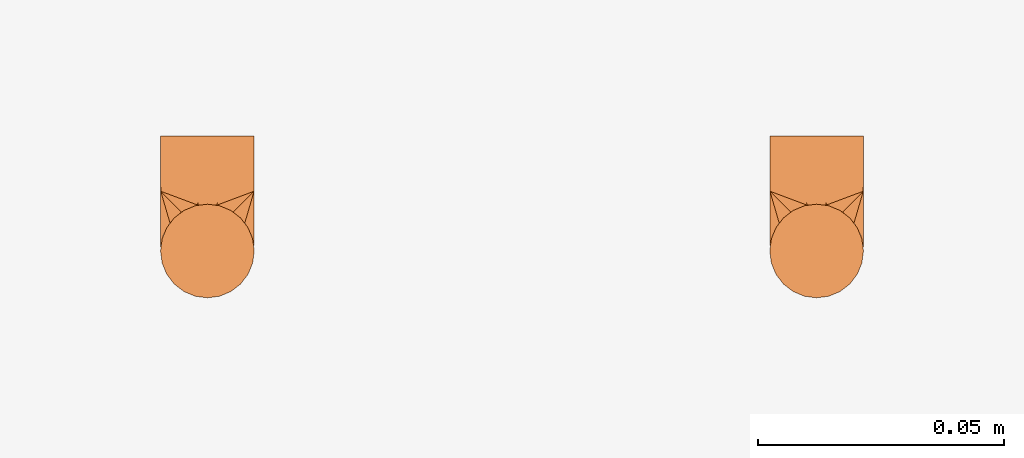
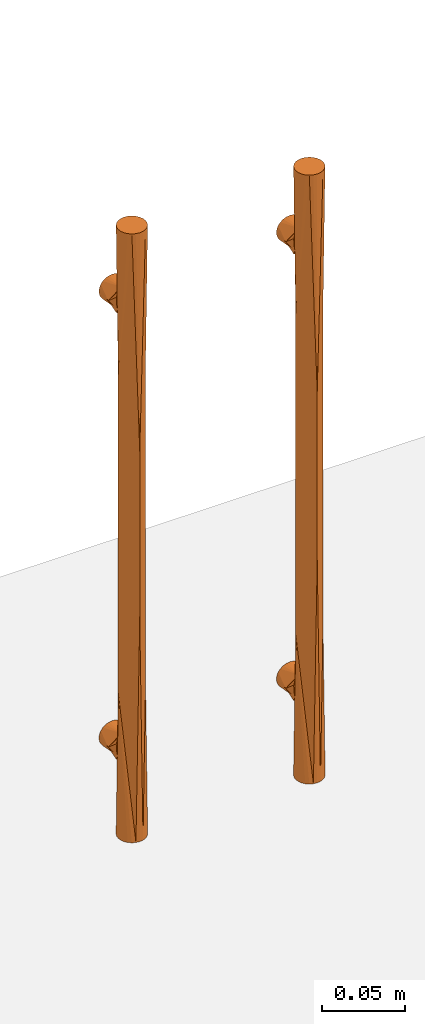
# One storey, part 2 of 4: 2 proxies.
"""IFC2X3 building model written with IfcOpenShell, lengths in millimetres."""

from ifc_helpers import new_model, entity, si_unit, converted_unit, derived_unit, direction, frame, origin, place, context, subcontext, project, spatial, faceted_brep, source, transform, mapped, material, type_object, type_shapes, element, save


model = new_model("IFC2X3")

# Units and contexts
model_context = context("Model", 3, precision=0.01, world=origin(), true_north=direction((6.12303176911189e-17, 1.0)))
context_of_model = context(None, 3, precision=0.01, world=origin(), true_north=direction((6.12303176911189e-17, 1.0)))
body_context = subcontext(model_context, "Body", "Model", "MODEL_VIEW")
ifc_project = project(units=[si_unit("LENGTHUNIT", "METRE", prefix="MILLI"), si_unit("AREAUNIT", "SQUARE_METRE"), si_unit("VOLUMEUNIT", "CUBIC_METRE"), converted_unit("PLANEANGLEUNIT", "DEGREE", entity("IfcRatioMeasure", 0.0174532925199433), si_unit("PLANEANGLEUNIT", "RADIAN"), dimensions=[0, 0, 0, 0, 0, 0, 0]), si_unit("MASSUNIT", "GRAM", prefix="KILO"), derived_unit("MASSDENSITYUNIT", [(si_unit("MASSUNIT", "GRAM", prefix="KILO"), 1), (si_unit("LENGTHUNIT", "METRE"), -3)]), si_unit("TIMEUNIT", "SECOND"), si_unit("FREQUENCYUNIT", "HERTZ"), si_unit("THERMODYNAMICTEMPERATUREUNIT", "DEGREE_CELSIUS"), derived_unit("THERMALTRANSMITTANCEUNIT", [(si_unit("MASSUNIT", "GRAM", prefix="KILO"), 1), (si_unit("THERMODYNAMICTEMPERATUREUNIT", "KELVIN"), -1), (si_unit("TIMEUNIT", "SECOND"), -3)]), derived_unit("VOLUMETRICFLOWRATEUNIT", [(si_unit("LENGTHUNIT", "METRE"), 3), (si_unit("TIMEUNIT", "SECOND"), -1)]), si_unit("ELECTRICCURRENTUNIT", "AMPERE"), si_unit("ELECTRICVOLTAGEUNIT", "VOLT"), si_unit("POWERUNIT", "WATT"), si_unit("FORCEUNIT", "NEWTON", prefix="KILO"), si_unit("ILLUMINANCEUNIT", "LUX"), si_unit("LUMINOUSFLUXUNIT", "LUMEN"), si_unit("LUMINOUSINTENSITYUNIT", "CANDELA"), derived_unit("USERDEFINED", [(si_unit("MASSUNIT", "GRAM", prefix="KILO"), -1), (si_unit("LENGTHUNIT", "METRE"), -2), (si_unit("TIMEUNIT", "SECOND"), 3), (si_unit("LUMINOUSFLUXUNIT", "LUMEN"), 1)]), derived_unit("LINEARVELOCITYUNIT", [(si_unit("LENGTHUNIT", "METRE"), 1), (si_unit("TIMEUNIT", "SECOND"), -1)]), si_unit("PRESSUREUNIT", "PASCAL"), derived_unit("USERDEFINED", [(si_unit("LENGTHUNIT", "METRE"), -2), (si_unit("MASSUNIT", "GRAM", prefix="KILO"), 1), (si_unit("TIMEUNIT", "SECOND"), -2)])], contexts=[model_context, context_of_model])

# Site, building, storey
site_placement = place(None, origin())
site = spatial("IfcSite", under=ifc_project, at=site_placement, Name="Default", CompositionType="ELEMENT")
building_placement = place(site_placement, origin())
building = spatial("IfcBuilding", under=site, at=building_placement, Name="n/a", CompositionType="ELEMENT")
storey_placement = place(building_placement, origin())
storey = spatial("IfcBuildingStorey", under=building, at=storey_placement, Name="Level 0", CompositionType="ELEMENT", Elevation=0.0)

# Proxies
ifc_material_1 = material(Name="DBLTD_Duten_Metal_BrushedBrass")
building_element_proxy_type_1 = type_object("IfcBuildingElementProxyType", PredefinedType="NOTDEFINED", material=ifc_material_1)
shared_shape_1 = source(origin(), body_context, "Body", "Brep", [
    faceted_brep([(18.7547280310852, 16.8611433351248, 384.331021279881), (20.1271758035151, 14.2969526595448, 386.945673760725), (20.1271758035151, 14.2969526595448, 393.054326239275), (18.7547280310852, 16.8611433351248, 395.668978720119), (3.50644367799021, 16.8585483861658, 395.666356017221), (3.50644367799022, 16.8585483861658, 384.333643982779), (16.4191813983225, 19.0676721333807, 382.10753097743), (5.84226515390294, 19.0665559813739, 382.108653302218), (20.6315606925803, 11.9627029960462, 390.0), (16.4191813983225, 19.0676721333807, 397.89246902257), (5.84226515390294, 19.0665559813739, 397.891346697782), (9.18928749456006, 20.4679610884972, 399.299331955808), (13.073195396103, 20.4680938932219, 399.299465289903), (9.18928749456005, 20.4679610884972, 380.700668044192), (13.0731953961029, 20.4680938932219, 380.700534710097), (2.13472865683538, 14.2934921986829, 386.949260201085), (2.13472865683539, 14.293492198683, 393.050739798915), (1.63156069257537, 11.9627029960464, 390.0), (13.5903416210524, 34.5952722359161, 399.176295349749), (15.8815606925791, 34.5952722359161, 398.227241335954), (17.8490751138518, 34.5952722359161, 396.717514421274), (19.3588020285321, 34.5952722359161, 394.750000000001), (20.3078560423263, 34.5952722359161, 392.458780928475), (20.6315606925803, 34.5952722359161, 390.0), (20.3078560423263, 34.5952722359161, 387.541219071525), (19.3588020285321, 34.5952722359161, 385.249999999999), (17.8490751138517, 34.5952722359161, 383.282485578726), (15.881560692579, 34.5952722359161, 381.772758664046), (13.5903416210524, 34.5952722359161, 380.823704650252), (11.1315606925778, 34.5952722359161, 380.499999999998), (8.67277976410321, 34.5952722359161, 380.823704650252), (6.38156069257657, 34.5952722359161, 381.772758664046), (4.41404627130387, 34.5952722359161, 383.282485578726), (2.90431935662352, 34.5952722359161, 385.249999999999), (1.9552653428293, 34.5952722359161, 387.541219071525), (1.63156069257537, 34.5952722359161, 390.0), (1.95526534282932, 34.5952722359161, 392.458780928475), (2.90431935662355, 34.5952722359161, 394.750000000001), (4.41404627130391, 34.5952722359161, 396.717514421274), (6.38156069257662, 34.5952722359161, 398.227241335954), (8.67277976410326, 34.5952722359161, 399.176295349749), (11.1315606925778, 34.5952722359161, 399.500000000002), (1.63156069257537, 23.2978504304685, 390.0), (1.63156069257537, 17.6302767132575, 390.0), (1.63156069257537, 14.7964898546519, 390.0), (20.6315606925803, 23.2978504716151, 390.0), (20.6315606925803, 17.6302767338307, 390.0), (20.6315606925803, 14.7964898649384, 390.0)], [[[0, 1, 2, 3]], [[0, 3, 4, 5]], [[6, 0, 7]], [[2, 1, 8]], [[9, 10, 3]], [[11, 9, 12]], [[13, 14, 6]], [[7, 0, 5]], [[15, 5, 4, 16]], [[11, 10, 9]], [[4, 3, 10]], [[16, 17, 15]], [[7, 13, 6]], [[18, 19, 20, 21, 22, 23, 24, 25, 26, 27, 28, 29, 30, 31, 32, 33, 34, 35, 36, 37, 38, 39, 40, 41]], [[34, 33, 42]], [[32, 13, 42]], [[32, 42, 33]], [[32, 31, 13]], [[15, 43, 5]], [[34, 42, 35]], [[15, 17, 44, 43]], [[13, 7, 42]], [[5, 42, 7]], [[13, 30, 29]], [[31, 30, 13]], [[43, 42, 5]], [[28, 14, 29]], [[27, 14, 28]], [[26, 25, 45]], [[27, 26, 14]], [[25, 24, 45]], [[0, 46, 1]], [[26, 45, 14]], [[14, 45, 6]], [[1, 46, 47, 8]], [[0, 6, 45]], [[23, 45, 24]], [[45, 46, 0]], [[29, 14, 13]], [[22, 21, 45]], [[20, 12, 45]], [[20, 45, 21]], [[20, 19, 12]], [[2, 46, 3]], [[22, 45, 23]], [[16, 43, 44, 17]], [[12, 9, 45]], [[3, 45, 9]], [[12, 18, 41]], [[4, 43, 16]], [[19, 18, 12]], [[42, 43, 4]], [[40, 11, 41]], [[39, 11, 40]], [[38, 37, 42]], [[39, 38, 11]], [[37, 36, 42]], [[2, 8, 47, 46]], [[38, 42, 11]], [[11, 42, 10]], [[4, 10, 42]], [[35, 42, 36]], [[46, 45, 3]], [[41, 11, 12]]]),
    faceted_brep([(13.5903416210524, 34.5952722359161, 69.176295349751), (15.8815606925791, 34.5952722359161, 68.2272413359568), (17.8490751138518, 34.5952722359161, 66.7175144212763), (19.3588020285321, 34.5952722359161, 64.7500000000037), (20.3078560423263, 34.5952722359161, 62.458780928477), (20.6315606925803, 34.5952722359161, 60.0), (20.3078560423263, 34.5952722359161, 57.5412190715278), (19.3588020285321, 34.5952722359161, 55.2500000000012), (17.8490751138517, 34.5952722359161, 53.2824855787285), (15.881560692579, 34.5952722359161, 51.7727586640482), (13.5903416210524, 34.5952722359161, 50.8237046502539), (11.1315606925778, 34.5952722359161, 50.5), (8.67277976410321, 34.5952722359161, 50.8237046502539), (6.38156069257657, 34.5952722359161, 51.7727586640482), (4.41404627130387, 34.5952722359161, 53.2824855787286), (2.90431935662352, 34.5952722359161, 55.2500000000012), (1.9552653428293, 34.5952722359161, 57.5412190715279), (1.63156069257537, 34.5952722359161, 60.0), (1.95526534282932, 34.5952722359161, 62.4587809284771), (2.90431935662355, 34.5952722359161, 64.7500000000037), (4.41404627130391, 34.5952722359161, 66.7175144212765), (6.38156069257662, 34.5952722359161, 68.2272413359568), (8.67277976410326, 34.5952722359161, 69.176295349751), (11.1315606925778, 34.5952722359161, 69.5000000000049), (1.63156069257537, 23.2978504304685, 60.0), (9.18928749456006, 20.4679610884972, 50.7006680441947), (2.13472865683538, 14.2934921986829, 56.9492602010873), (1.63156069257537, 17.6302767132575, 60.0), (3.50644367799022, 16.8585483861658, 54.3336439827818), (1.63156069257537, 11.9627029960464, 60.0), (1.63156069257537, 14.7964898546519, 60.0), (5.84226515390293, 19.0665559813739, 52.1086533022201), (13.073195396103, 20.4680938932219, 50.7005347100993), (20.6315606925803, 23.2978504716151, 60.0), (18.7547280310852, 16.8611433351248, 54.3310212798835), (20.6315606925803, 17.6302767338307, 60.0), (20.1271758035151, 14.2969526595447, 56.9456737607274), (16.4191813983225, 19.0676721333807, 52.1075309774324), (20.6315606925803, 14.7964898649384, 60.0), (20.6315606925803, 11.9627029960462, 60.0), (13.073195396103, 20.4680938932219, 69.2994652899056), (20.1271758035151, 14.2969526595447, 63.0543262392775), (18.7547280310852, 16.8611433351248, 65.6689787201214), (2.13472865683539, 14.293492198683, 63.0507397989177), (16.4191813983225, 19.0676721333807, 67.8924690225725), (3.50644367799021, 16.8585483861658, 65.6663560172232), (9.18928749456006, 20.4679610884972, 69.2993319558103), (5.84226515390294, 19.0665559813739, 67.8913466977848)], [[[0, 1, 2, 3, 4, 5, 6, 7, 8, 9, 10, 11, 12, 13, 14, 15, 16, 17, 18, 19, 20, 21, 22, 23]], [[16, 15, 24]], [[14, 25, 24]], [[14, 24, 15]], [[14, 13, 25]], [[26, 27, 28]], [[16, 24, 17]], [[26, 29, 30, 27]], [[25, 31, 24]], [[28, 24, 31]], [[25, 12, 11]], [[13, 12, 25]], [[27, 24, 28]], [[10, 32, 11]], [[9, 32, 10]], [[8, 7, 33]], [[9, 8, 32]], [[7, 6, 33]], [[34, 35, 36]], [[8, 33, 32]], [[32, 33, 37]], [[36, 35, 38, 39]], [[34, 37, 33]], [[5, 33, 6]], [[33, 35, 34]], [[11, 32, 25]], [[4, 3, 33]], [[2, 40, 33]], [[2, 33, 3]], [[2, 1, 40]], [[41, 35, 42]], [[4, 33, 5]], [[43, 27, 30, 29]], [[40, 44, 33]], [[42, 33, 44]], [[40, 0, 23]], [[45, 27, 43]], [[1, 0, 40]], [[24, 27, 45]], [[22, 46, 23]], [[21, 46, 22]], [[20, 19, 24]], [[21, 20, 46]], [[19, 18, 24]], [[41, 39, 38, 35]], [[20, 24, 46]], [[46, 24, 47]], [[45, 47, 24]], [[17, 24, 18]], [[35, 33, 42]], [[23, 46, 40]], [[34, 36, 41, 42]], [[34, 42, 45, 28]], [[37, 34, 31]], [[41, 36, 39]], [[44, 47, 42]], [[46, 44, 40]], [[25, 32, 37]], [[31, 34, 28]], [[26, 28, 45, 43]], [[46, 47, 44]], [[45, 42, 47]], [[43, 29, 26]], [[31, 25, 37]]]),
    faceted_brep([(13.5997337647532, 1.92021338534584, 450.0), (15.8997049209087, 2.87289263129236, 450.0), (17.8747349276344, 4.38838645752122, 450.0), (19.3902287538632, 6.36341646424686, 450.0), (20.3429079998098, 8.66338762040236, 450.0), (20.6678491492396, 11.1315606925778, 450.0), (20.3429079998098, 13.5997337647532, 450.0), (19.3902287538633, 15.8997049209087, 450.0), (17.8747349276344, 17.8747349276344, 450.0), (15.8997049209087, 19.3902287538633, 450.0), (13.5997337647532, 20.3429079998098, 450.0), (11.1315606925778, 20.6678491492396, 450.0), (8.66338762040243, 20.3429079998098, 450.0), (6.36341646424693, 19.3902287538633, 450.0), (4.38838645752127, 17.8747349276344, 450.0), (2.8728926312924, 15.8997049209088, 450.0), (1.92021338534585, 13.5997337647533, 450.0), (1.595272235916, 11.1315606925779, 450.0), (1.92021338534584, 8.66338762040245, 450.0), (2.87289263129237, 6.36341646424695, 450.0), (4.38838645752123, 4.38838645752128, 450.0), (6.36341646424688, 2.87289263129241, 450.0), (8.66338762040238, 1.92021338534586, 450.0), (11.1315606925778, 1.595272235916, 450.0), (20.3429079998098, 13.5997337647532, 0.0), (20.6678491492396, 11.1315606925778, 0.0), (20.3429079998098, 8.66338762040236, 0.0), (19.3902287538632, 6.36341646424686, 0.0), (17.8747349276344, 4.38838645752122, 0.0), (15.8997049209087, 2.87289263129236, 0.0), (13.5997337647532, 1.92021338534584, 0.0), (11.1315606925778, 1.595272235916, 0.0), (8.66338762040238, 1.92021338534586, 0.0), (6.36341646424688, 2.87289263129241, 0.0), (4.38838645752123, 4.38838645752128, 0.0), (2.87289263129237, 6.36341646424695, 0.0), (1.92021338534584, 8.66338762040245, 0.0), (1.595272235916, 11.1315606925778, 0.0), (1.92021338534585, 13.5997337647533, 0.0), (2.8728926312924, 15.8997049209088, 0.0), (4.38838645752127, 17.8747349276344, 0.0), (6.36341646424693, 19.3902287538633, 0.0), (8.66338762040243, 20.3429079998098, 0.0), (11.1315606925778, 20.6678491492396, 0.0), (13.5997337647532, 20.3429079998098, 0.0), (15.8997049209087, 19.3902287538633, 0.0), (17.8747349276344, 17.8747349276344, 0.0), (19.3902287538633, 15.8997049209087, 0.0), (11.1315607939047, 1.595272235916, 288.259633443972), (11.1315610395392, 1.59527223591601, 166.413462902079), (20.6678491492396, 11.1315606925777, 107.826913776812), (20.6678491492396, 11.1315606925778, 225.0), (20.6678491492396, 11.1315606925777, 234.346172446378), (1.595272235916, 11.1315606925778, 342.173083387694), (20.6678491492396, 11.1315606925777, 342.17308622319), (1.595272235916, 11.1315606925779, 107.826913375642), (1.595272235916, 11.1315606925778, 224.999998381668), (1.595272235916, 11.1315606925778, 234.34617730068), (11.131560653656, 20.6678491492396, 288.259633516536), (11.1315605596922, 20.6678491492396, 166.413462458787)], [[[0, 1, 2, 3, 4, 5, 6, 7, 8, 9, 10, 11, 12, 13, 14, 15, 16, 17, 18, 19, 20, 21, 22, 23]], [[24, 25, 26, 27, 28, 29, 30, 31, 32, 33, 34, 35, 36, 37, 38, 39, 40, 41, 42, 43, 44, 45, 46, 47]], [[0, 23, 48]], [[49, 50, 51, 52]], [[21, 53, 48]], [[54, 2, 1]], [[26, 25, 50]], [[4, 54, 5]], [[30, 50, 49]], [[32, 49, 55]], [[35, 55, 36]], [[18, 17, 53]], [[36, 55, 37]], [[34, 33, 55]], [[48, 23, 22]], [[48, 52, 54]], [[3, 54, 4]], [[56, 55, 49]], [[53, 19, 18]], [[55, 35, 34]], [[31, 49, 32]], [[33, 32, 55]], [[29, 50, 30]], [[50, 28, 27]], [[50, 27, 26]], [[30, 49, 31]], [[52, 48, 49]], [[3, 2, 54]], [[48, 56, 49]], [[20, 19, 53]], [[53, 21, 20]], [[21, 48, 22]], [[1, 0, 48]], [[54, 1, 48]], [[48, 53, 57, 56]], [[29, 28, 50]], [[53, 14, 13]], [[58, 54, 52, 51]], [[43, 59, 44]], [[15, 53, 16]], [[45, 44, 50]], [[50, 47, 46]], [[58, 57, 53]], [[59, 42, 55]], [[6, 5, 54]], [[50, 25, 24]], [[54, 7, 6]], [[44, 59, 50]], [[47, 50, 24]], [[50, 59, 51]], [[12, 11, 58]], [[10, 58, 11]], [[38, 37, 55]], [[17, 16, 53]], [[46, 45, 50]], [[41, 55, 42]], [[40, 39, 55]], [[58, 51, 59]], [[55, 39, 38]], [[42, 59, 43]], [[59, 57, 58]], [[15, 14, 53]], [[59, 55, 56, 57]], [[54, 8, 7]], [[54, 9, 8]], [[10, 9, 58]], [[12, 58, 13]], [[53, 13, 58]], [[9, 54, 58]], [[41, 40, 55]]]),
])
type_shapes(building_element_proxy_type_1, [shared_shape_1])
proxy_1_placement = place(storey_placement, frame((2113.1485780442, 266.619771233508, 775.0)))
element("IfcBuildingElementProxy", 1, at=proxy_1_placement, inside=storey, type_object=building_element_proxy_type_1, material=ifc_material_1, Name="(7)", ObjectType="DBLTD_Duten_PullHandles_Q911:Brushed Brass Pull Handle", context=body_context, shape_type="MappedRepresentation", body=[
    mapped(shared_shape_1, transform((0.0, 0.0, 0.0), scale=1.0)),
])
ifc_material_2 = material(Name="DBLTD_Duten_Metal_BrushedCopper")
building_element_proxy_type_2 = type_object("IfcBuildingElementProxyType", PredefinedType="NOTDEFINED", material=ifc_material_2)
shared_shape_2 = source(origin(), body_context, "Body", "Brep", [
    faceted_brep([(18.7547280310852, 16.8611433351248, 384.331021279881), (20.1271758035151, 14.2969526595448, 386.945673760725), (20.1271758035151, 14.2969526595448, 393.054326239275), (18.7547280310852, 16.8611433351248, 395.668978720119), (3.50644367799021, 16.8585483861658, 395.666356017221), (3.50644367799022, 16.8585483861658, 384.333643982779), (16.4191813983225, 19.0676721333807, 382.10753097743), (5.84226515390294, 19.0665559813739, 382.108653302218), (20.6315606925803, 11.9627029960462, 390.0), (16.4191813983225, 19.0676721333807, 397.89246902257), (5.84226515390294, 19.0665559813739, 397.891346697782), (9.18928749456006, 20.4679610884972, 399.299331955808), (13.073195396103, 20.4680938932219, 399.299465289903), (9.18928749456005, 20.4679610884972, 380.700668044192), (13.0731953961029, 20.4680938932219, 380.700534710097), (2.13472865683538, 14.2934921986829, 386.949260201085), (2.13472865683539, 14.293492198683, 393.050739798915), (1.63156069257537, 11.9627029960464, 390.0), (13.5903416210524, 34.5952722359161, 399.176295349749), (15.8815606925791, 34.5952722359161, 398.227241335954), (17.8490751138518, 34.5952722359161, 396.717514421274), (19.3588020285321, 34.5952722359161, 394.750000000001), (20.3078560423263, 34.5952722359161, 392.458780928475), (20.6315606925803, 34.5952722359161, 390.0), (20.3078560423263, 34.5952722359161, 387.541219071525), (19.3588020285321, 34.5952722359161, 385.249999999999), (17.8490751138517, 34.5952722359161, 383.282485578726), (15.881560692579, 34.5952722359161, 381.772758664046), (13.5903416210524, 34.5952722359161, 380.823704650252), (11.1315606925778, 34.5952722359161, 380.499999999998), (8.67277976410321, 34.5952722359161, 380.823704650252), (6.38156069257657, 34.5952722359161, 381.772758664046), (4.41404627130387, 34.5952722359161, 383.282485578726), (2.90431935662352, 34.5952722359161, 385.249999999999), (1.9552653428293, 34.5952722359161, 387.541219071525), (1.63156069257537, 34.5952722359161, 390.0), (1.95526534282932, 34.5952722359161, 392.458780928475), (2.90431935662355, 34.5952722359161, 394.750000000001), (4.41404627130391, 34.5952722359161, 396.717514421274), (6.38156069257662, 34.5952722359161, 398.227241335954), (8.67277976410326, 34.5952722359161, 399.176295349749), (11.1315606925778, 34.5952722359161, 399.500000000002), (1.63156069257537, 23.2978504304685, 390.0), (1.63156069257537, 17.6302767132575, 390.0), (1.63156069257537, 14.7964898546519, 390.0), (20.6315606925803, 23.2978504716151, 390.0), (20.6315606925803, 17.6302767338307, 390.0), (20.6315606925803, 14.7964898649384, 390.0)], [[[0, 1, 2, 3]], [[0, 3, 4, 5]], [[6, 0, 7]], [[2, 1, 8]], [[9, 10, 3]], [[11, 9, 12]], [[13, 14, 6]], [[7, 0, 5]], [[15, 5, 4, 16]], [[11, 10, 9]], [[4, 3, 10]], [[16, 17, 15]], [[7, 13, 6]], [[18, 19, 20, 21, 22, 23, 24, 25, 26, 27, 28, 29, 30, 31, 32, 33, 34, 35, 36, 37, 38, 39, 40, 41]], [[34, 33, 42]], [[32, 13, 42]], [[32, 42, 33]], [[32, 31, 13]], [[15, 43, 5]], [[34, 42, 35]], [[15, 17, 44, 43]], [[13, 7, 42]], [[5, 42, 7]], [[13, 30, 29]], [[31, 30, 13]], [[43, 42, 5]], [[28, 14, 29]], [[27, 14, 28]], [[26, 25, 45]], [[27, 26, 14]], [[25, 24, 45]], [[0, 46, 1]], [[26, 45, 14]], [[14, 45, 6]], [[1, 46, 47, 8]], [[0, 6, 45]], [[23, 45, 24]], [[45, 46, 0]], [[29, 14, 13]], [[22, 21, 45]], [[20, 12, 45]], [[20, 45, 21]], [[20, 19, 12]], [[2, 46, 3]], [[22, 45, 23]], [[16, 43, 44, 17]], [[12, 9, 45]], [[3, 45, 9]], [[12, 18, 41]], [[4, 43, 16]], [[19, 18, 12]], [[42, 43, 4]], [[40, 11, 41]], [[39, 11, 40]], [[38, 37, 42]], [[39, 38, 11]], [[37, 36, 42]], [[2, 8, 47, 46]], [[38, 42, 11]], [[11, 42, 10]], [[4, 10, 42]], [[35, 42, 36]], [[46, 45, 3]], [[41, 11, 12]]]),
    faceted_brep([(13.5903416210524, 34.5952722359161, 69.176295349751), (15.8815606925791, 34.5952722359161, 68.2272413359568), (17.8490751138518, 34.5952722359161, 66.7175144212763), (19.3588020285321, 34.5952722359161, 64.7500000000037), (20.3078560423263, 34.5952722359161, 62.458780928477), (20.6315606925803, 34.5952722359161, 60.0), (20.3078560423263, 34.5952722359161, 57.5412190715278), (19.3588020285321, 34.5952722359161, 55.2500000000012), (17.8490751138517, 34.5952722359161, 53.2824855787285), (15.881560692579, 34.5952722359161, 51.7727586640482), (13.5903416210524, 34.5952722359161, 50.8237046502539), (11.1315606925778, 34.5952722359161, 50.5), (8.67277976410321, 34.5952722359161, 50.8237046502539), (6.38156069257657, 34.5952722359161, 51.7727586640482), (4.41404627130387, 34.5952722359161, 53.2824855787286), (2.90431935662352, 34.5952722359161, 55.2500000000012), (1.9552653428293, 34.5952722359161, 57.5412190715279), (1.63156069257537, 34.5952722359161, 60.0), (1.95526534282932, 34.5952722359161, 62.4587809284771), (2.90431935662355, 34.5952722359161, 64.7500000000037), (4.41404627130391, 34.5952722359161, 66.7175144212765), (6.38156069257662, 34.5952722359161, 68.2272413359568), (8.67277976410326, 34.5952722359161, 69.176295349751), (11.1315606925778, 34.5952722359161, 69.5000000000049), (1.63156069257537, 23.2978504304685, 60.0), (9.18928749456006, 20.4679610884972, 50.7006680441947), (2.13472865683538, 14.2934921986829, 56.9492602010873), (1.63156069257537, 17.6302767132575, 60.0), (3.50644367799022, 16.8585483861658, 54.3336439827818), (1.63156069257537, 11.9627029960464, 60.0), (1.63156069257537, 14.7964898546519, 60.0), (5.84226515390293, 19.0665559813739, 52.1086533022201), (13.073195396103, 20.4680938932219, 50.7005347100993), (20.6315606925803, 23.2978504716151, 60.0), (18.7547280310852, 16.8611433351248, 54.3310212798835), (20.6315606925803, 17.6302767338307, 60.0), (20.1271758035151, 14.2969526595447, 56.9456737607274), (16.4191813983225, 19.0676721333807, 52.1075309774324), (20.6315606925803, 14.7964898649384, 60.0), (20.6315606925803, 11.9627029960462, 60.0), (13.073195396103, 20.4680938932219, 69.2994652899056), (20.1271758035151, 14.2969526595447, 63.0543262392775), (18.7547280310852, 16.8611433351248, 65.6689787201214), (2.13472865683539, 14.293492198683, 63.0507397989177), (16.4191813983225, 19.0676721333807, 67.8924690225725), (3.50644367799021, 16.8585483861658, 65.6663560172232), (9.18928749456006, 20.4679610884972, 69.2993319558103), (5.84226515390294, 19.0665559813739, 67.8913466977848)], [[[0, 1, 2, 3, 4, 5, 6, 7, 8, 9, 10, 11, 12, 13, 14, 15, 16, 17, 18, 19, 20, 21, 22, 23]], [[16, 15, 24]], [[14, 25, 24]], [[14, 24, 15]], [[14, 13, 25]], [[26, 27, 28]], [[16, 24, 17]], [[26, 29, 30, 27]], [[25, 31, 24]], [[28, 24, 31]], [[25, 12, 11]], [[13, 12, 25]], [[27, 24, 28]], [[10, 32, 11]], [[9, 32, 10]], [[8, 7, 33]], [[9, 8, 32]], [[7, 6, 33]], [[34, 35, 36]], [[8, 33, 32]], [[32, 33, 37]], [[36, 35, 38, 39]], [[34, 37, 33]], [[5, 33, 6]], [[33, 35, 34]], [[11, 32, 25]], [[4, 3, 33]], [[2, 40, 33]], [[2, 33, 3]], [[2, 1, 40]], [[41, 35, 42]], [[4, 33, 5]], [[43, 27, 30, 29]], [[40, 44, 33]], [[42, 33, 44]], [[40, 0, 23]], [[45, 27, 43]], [[1, 0, 40]], [[24, 27, 45]], [[22, 46, 23]], [[21, 46, 22]], [[20, 19, 24]], [[21, 20, 46]], [[19, 18, 24]], [[41, 39, 38, 35]], [[20, 24, 46]], [[46, 24, 47]], [[45, 47, 24]], [[17, 24, 18]], [[35, 33, 42]], [[23, 46, 40]], [[34, 36, 41, 42]], [[34, 42, 45, 28]], [[37, 34, 31]], [[41, 36, 39]], [[44, 47, 42]], [[46, 44, 40]], [[25, 32, 37]], [[31, 34, 28]], [[26, 28, 45, 43]], [[46, 47, 44]], [[45, 42, 47]], [[43, 29, 26]], [[31, 25, 37]]]),
    faceted_brep([(13.5997337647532, 1.92021338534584, 450.0), (15.8997049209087, 2.87289263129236, 450.0), (17.8747349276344, 4.38838645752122, 450.0), (19.3902287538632, 6.36341646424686, 450.0), (20.3429079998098, 8.66338762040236, 450.0), (20.6678491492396, 11.1315606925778, 450.0), (20.3429079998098, 13.5997337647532, 450.0), (19.3902287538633, 15.8997049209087, 450.0), (17.8747349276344, 17.8747349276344, 450.0), (15.8997049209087, 19.3902287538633, 450.0), (13.5997337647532, 20.3429079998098, 450.0), (11.1315606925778, 20.6678491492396, 450.0), (8.66338762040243, 20.3429079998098, 450.0), (6.36341646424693, 19.3902287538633, 450.0), (4.38838645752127, 17.8747349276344, 450.0), (2.8728926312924, 15.8997049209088, 450.0), (1.92021338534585, 13.5997337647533, 450.0), (1.595272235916, 11.1315606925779, 450.0), (1.92021338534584, 8.66338762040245, 450.0), (2.87289263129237, 6.36341646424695, 450.0), (4.38838645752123, 4.38838645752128, 450.0), (6.36341646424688, 2.87289263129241, 450.0), (8.66338762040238, 1.92021338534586, 450.0), (11.1315606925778, 1.595272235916, 450.0), (20.3429079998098, 13.5997337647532, 0.0), (20.6678491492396, 11.1315606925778, 0.0), (20.3429079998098, 8.66338762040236, 0.0), (19.3902287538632, 6.36341646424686, 0.0), (17.8747349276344, 4.38838645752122, 0.0), (15.8997049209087, 2.87289263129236, 0.0), (13.5997337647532, 1.92021338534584, 0.0), (11.1315606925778, 1.595272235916, 0.0), (8.66338762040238, 1.92021338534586, 0.0), (6.36341646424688, 2.87289263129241, 0.0), (4.38838645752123, 4.38838645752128, 0.0), (2.87289263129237, 6.36341646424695, 0.0), (1.92021338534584, 8.66338762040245, 0.0), (1.595272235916, 11.1315606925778, 0.0), (1.92021338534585, 13.5997337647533, 0.0), (2.8728926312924, 15.8997049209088, 0.0), (4.38838645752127, 17.8747349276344, 0.0), (6.36341646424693, 19.3902287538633, 0.0), (8.66338762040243, 20.3429079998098, 0.0), (11.1315606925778, 20.6678491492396, 0.0), (13.5997337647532, 20.3429079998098, 0.0), (15.8997049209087, 19.3902287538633, 0.0), (17.8747349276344, 17.8747349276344, 0.0), (19.3902287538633, 15.8997049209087, 0.0), (11.1315607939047, 1.595272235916, 288.259633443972), (11.1315610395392, 1.59527223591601, 166.413462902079), (20.6678491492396, 11.1315606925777, 107.826913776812), (20.6678491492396, 11.1315606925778, 225.0), (20.6678491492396, 11.1315606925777, 234.346172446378), (1.595272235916, 11.1315606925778, 342.173083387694), (20.6678491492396, 11.1315606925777, 342.17308622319), (1.595272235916, 11.1315606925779, 107.826913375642), (1.595272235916, 11.1315606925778, 224.999998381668), (1.595272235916, 11.1315606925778, 234.34617730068), (11.131560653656, 20.6678491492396, 288.259633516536), (11.1315605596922, 20.6678491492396, 166.413462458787)], [[[0, 1, 2, 3, 4, 5, 6, 7, 8, 9, 10, 11, 12, 13, 14, 15, 16, 17, 18, 19, 20, 21, 22, 23]], [[24, 25, 26, 27, 28, 29, 30, 31, 32, 33, 34, 35, 36, 37, 38, 39, 40, 41, 42, 43, 44, 45, 46, 47]], [[0, 23, 48]], [[49, 50, 51, 52]], [[21, 53, 48]], [[54, 2, 1]], [[26, 25, 50]], [[4, 54, 5]], [[30, 50, 49]], [[32, 49, 55]], [[35, 55, 36]], [[18, 17, 53]], [[36, 55, 37]], [[34, 33, 55]], [[48, 23, 22]], [[48, 52, 54]], [[3, 54, 4]], [[56, 55, 49]], [[53, 19, 18]], [[55, 35, 34]], [[31, 49, 32]], [[33, 32, 55]], [[29, 50, 30]], [[50, 28, 27]], [[50, 27, 26]], [[30, 49, 31]], [[52, 48, 49]], [[3, 2, 54]], [[48, 56, 49]], [[20, 19, 53]], [[53, 21, 20]], [[21, 48, 22]], [[1, 0, 48]], [[54, 1, 48]], [[48, 53, 57, 56]], [[29, 28, 50]], [[53, 14, 13]], [[58, 54, 52, 51]], [[43, 59, 44]], [[15, 53, 16]], [[45, 44, 50]], [[50, 47, 46]], [[58, 57, 53]], [[59, 42, 55]], [[6, 5, 54]], [[50, 25, 24]], [[54, 7, 6]], [[44, 59, 50]], [[47, 50, 24]], [[50, 59, 51]], [[12, 11, 58]], [[10, 58, 11]], [[38, 37, 55]], [[17, 16, 53]], [[46, 45, 50]], [[41, 55, 42]], [[40, 39, 55]], [[58, 51, 59]], [[55, 39, 38]], [[42, 59, 43]], [[59, 57, 58]], [[15, 14, 53]], [[59, 55, 56, 57]], [[54, 8, 7]], [[54, 9, 8]], [[10, 9, 58]], [[12, 58, 13]], [[53, 13, 58]], [[9, 54, 58]], [[41, 40, 55]]]),
])
type_shapes(building_element_proxy_type_2, [shared_shape_2])
proxy_2_placement = place(storey_placement, frame((2237.20910159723, 266.619771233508, 775.0)))
element("IfcBuildingElementProxy", 2, at=proxy_2_placement, inside=storey, type_object=building_element_proxy_type_2, material=ifc_material_2, Name="(9)", ObjectType="DBLTD_Duten_PullHandles_Q911:Brushed Copper Pull Handle", context=body_context, shape_type="MappedRepresentation", body=[
    mapped(shared_shape_2, transform((0.0, 0.0, 0.0), scale=1.0)),
])

save(model, "model.ifc")
